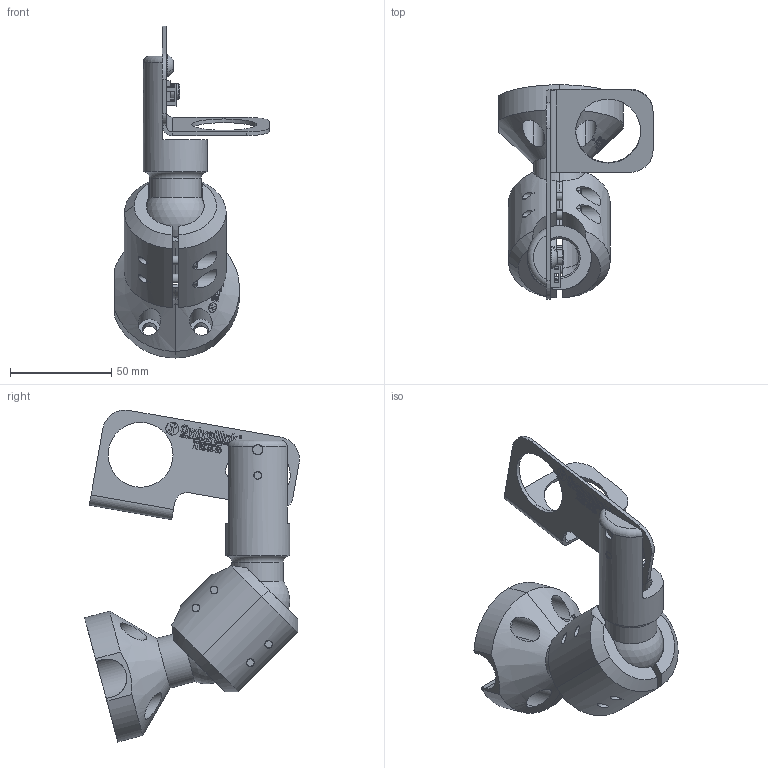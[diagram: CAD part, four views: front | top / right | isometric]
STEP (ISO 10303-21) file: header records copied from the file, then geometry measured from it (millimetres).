
FILE_DESCRIPTION (( 'STEP AP203' ), '1' );
FILE_NAME ('AFSB-1000-SBKIT-30.STEP', '2020-08-17T16:02:00', ( '' ), ( '' ), 'SwSTEP 2.0', 'SolidWorks 2020', '' );
FILE_SCHEMA (( 'CONFIG_CONTROL_DESIGN' ));
Length unit declared in the file: inch
Products named in the file (10): SHCS-11587893-Z_SHCS-11587893-Z.STEP; SHCS-23146-BO_SHCS-23146-BO.STEP; AFSB-1_Swivellink Etching.STEP; AFSB-1000-SBKIT-30; AFSB-SBH.STEP; BHCS-94048-Z_BHCS-94048-Z.STEP; AFSB-SB-30.STEP; 07281137.STEP; AFSB-2.STEP; AFSB-2_Swivellink Etching.STEP
Assembly tree (12 placements, depth 3):
  AFSB-1000-SBKIT-30
    AFSB-2.STEP
      AFSB-2_Swivellink Etching.STEP
      SHCS-23146-BO_SHCS-23146-BO.STEP  x4
    AFSB-SB-30.STEP
    AFSB-SBH.STEP
    BHCS-94048-Z_BHCS-94048-Z.STEP
    AFSB-1_Swivellink Etching.STEP
    SHCS-11587893-Z_SHCS-11587893-Z.STEP
    07281137.STEP
Bounding box: 76.19 x 106.09 x 164.04 mm (x, y, z)
Volume: 87482.8 mm3; surface area: 59606.7 mm2
Topology: 11 solids, 68 shells, 508 faces, 2912 edges, 2570 vertices
Faces by surface type: plane 234, cylinder 126, cone 115, sphere 15, torus 13, bspline 5
Full cylindrical faces by diameter (mm): 3.797 x1, 5.105 x1, 5.613 x4, 9.119 x4, 19.05 x1, 25.4 x1, 31.75 x1
Entity records: 35935 total; most frequent: CARTESIAN_POINT 15853, ORIENTED_EDGE 4507, EDGE_CURVE 2706, DIRECTION 2558, VERTEX_POINT 2466, B_SPLINE_CURVE_WITH_KNOTS 1245, LINE 1224, VECTOR 1224
